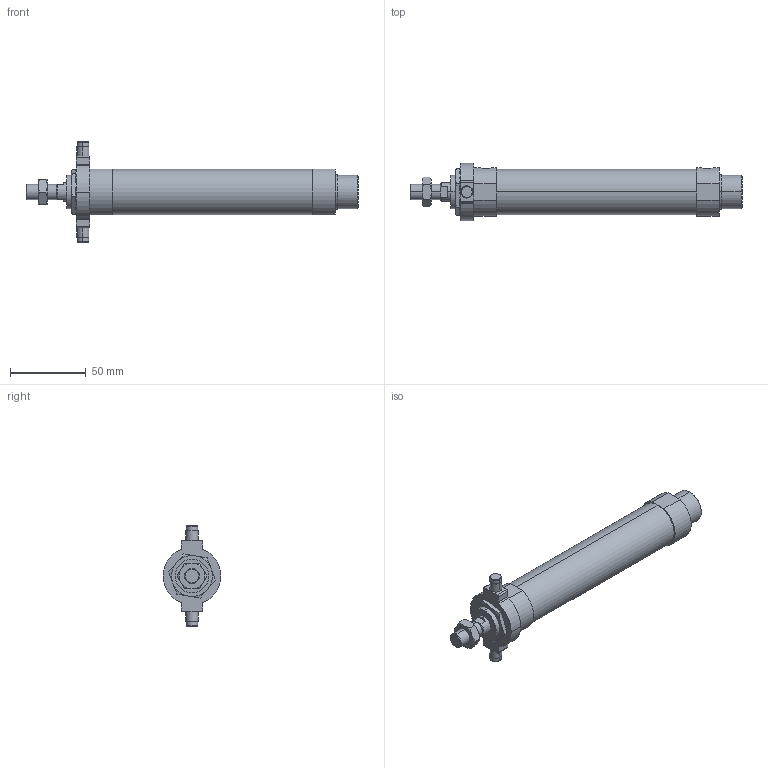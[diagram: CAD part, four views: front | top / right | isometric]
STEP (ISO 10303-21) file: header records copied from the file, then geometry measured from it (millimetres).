
FILE_DESCRIPTION (( 'STEP AP203' ), '1' );
FILE_NAME ('J#2-25-100-T.STEP', '2016-03-08T07:16:44', ( '' ), ( '' ), 'SwSTEP 2.0', 'SolidWorks 2014', '' );
FILE_SCHEMA (( 'CONFIG_CONTROL_DESIGN' ));
Length unit declared in the file: millimetre
Products named in the file (5): J#2-25-100-T; J#2-25-100; J#2-25-T
Assembly tree (4 placements, depth 2):
  J#2-25-100-T
    J#2-25-100
    (unnamed)
    J#2-25-T
    (unnamed)
Bounding box: 219 x 38 x 66 mm (x, y, z)
Volume: 138741 mm3; surface area: 27374.3 mm2
Topology: 4 solids, 4 shells, 136 faces, 307 edges, 184 vertices
Faces by surface type: cylinder 47, plane 47, torus 24, cone 18
Entity records: 4590 total; most frequent: CARTESIAN_POINT 1054, DIRECTION 661, ORIENTED_EDGE 606, EDGE_CURVE 303, AXIS2_PLACEMENT_3D 271, VERTEX_POINT 184, EDGE_LOOP 151, ADVANCED_FACE 136
